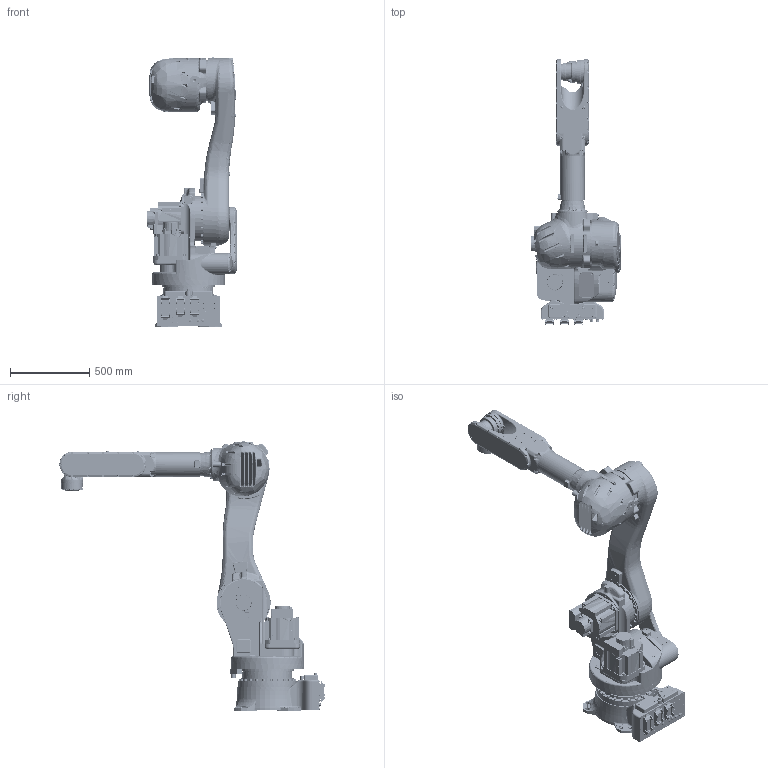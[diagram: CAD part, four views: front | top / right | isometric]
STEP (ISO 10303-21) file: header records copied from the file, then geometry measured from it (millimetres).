
FILE_DESCRIPTION(('CATIA V5 STEP Exchange'),'2;1');
FILE_NAME('D:\モデリング\☆☆☆STEP\RD\RD080N-BC01_201111\RD080N-BC01_RARAS_201019\軽量化\Part\RD080N-BC01.stp','2020-11-11T04:38:06+00:00',('none'),('none'),'CATIA Version 5-6 Release 2016 SP6 HF14','CATIA V5 STEP AP203','none');
FILE_SCHEMA(('CONFIG_CONTROL_DESIGN'));
Products named in the file (1): RD080N-BC01
Assembly tree (6 placements, depth 2):
  RD080N-BC01
    #57
    #37958
    #100880
    #138849
    #247171
    #261168
Bounding box: 571 x 1677.41 x 1696.5 mm (x, y, z)
Volume: 193587598.3 mm3; surface area: 5584910.2 mm2
Topology: 9 solids, 9 shells, 5895 faces, 14666 edges, 9082 vertices
Faces by surface type: cylinder 2240, plane 1812, bspline 1027, torus 399, cone 265, sphere 83, extrusion 36, revolution 33
Entity records: 263310 total; most frequent: CARTESIAN_POINT 138864, ORIENTED_EDGE 28788, DIRECTION 18778, EDGE_CURVE 14394, VERTEX_POINT 9082, AXIS2_PLACEMENT_3D 9062, EDGE_LOOP 6516, ADVANCED_FACE 5895
